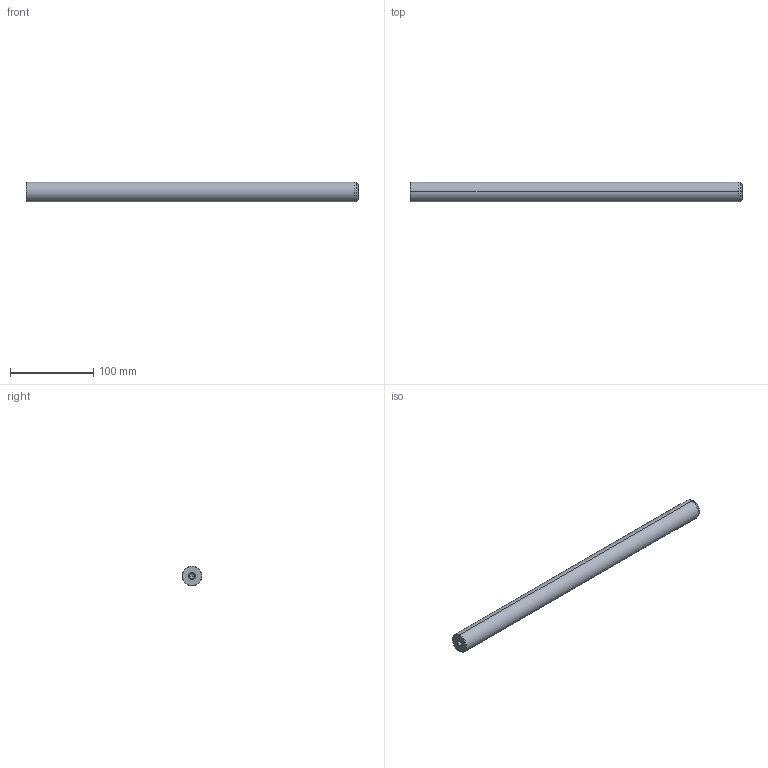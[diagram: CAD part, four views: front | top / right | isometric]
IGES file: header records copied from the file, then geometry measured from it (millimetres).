
Start section: START RECORD GO HERE.
Global section: file name: 720-24x400.igs; native system: DASSAULT SYSTEMES CATIA V5 R20 - www.3ds.com; preprocessor: CATIA Version 5 Release 20 ; author: Utente; organization: NB04-ASUS; date: 20210101.134705; units: millimetre
Bounding box: 400 x 24 x 24 mm (x, y, z)
Surface area: 31899.3 mm2 (no closed solid volume)
Topology: 0 solids, 0 shells, 22 faces, 120 edges, 116 vertices
Faces by surface type: revolution 20, plane 2
